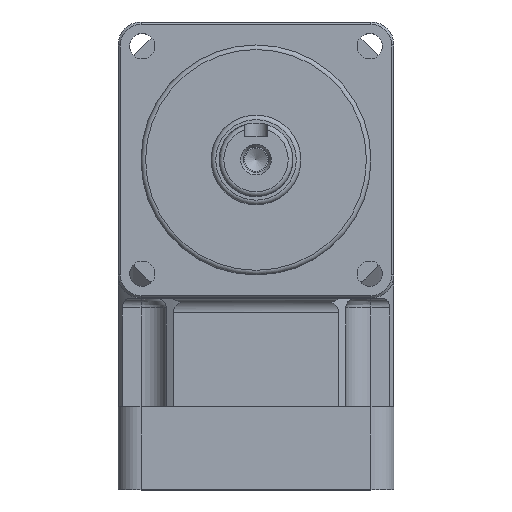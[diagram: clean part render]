
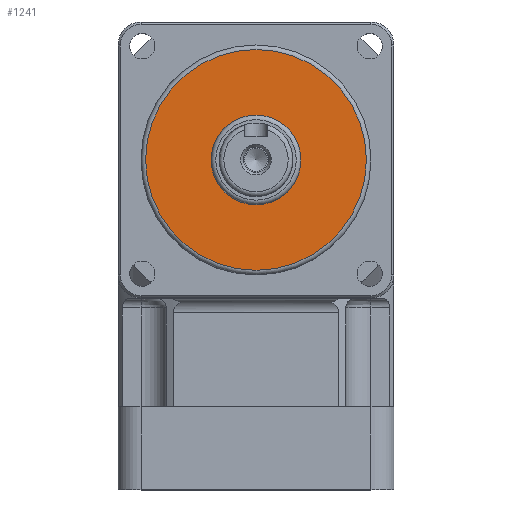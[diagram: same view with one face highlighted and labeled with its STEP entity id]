
A CAD part, top view. The second image highlights one B-rep face of the part: STEP entity #1241.
In plain terms, the highlighted planar face has unit normal (0, 0, 1).
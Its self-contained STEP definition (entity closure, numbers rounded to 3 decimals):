
#507=CARTESIAN_POINT('',(-9.75,0.,-1.0));
#508=VERTEX_POINT('',#507);
#509=CARTESIAN_POINT('',(0.0,0.0,-1.0));
#510=DIRECTION('',(0.0,0.0,1.0));
#511=DIRECTION('',(1.0,0.0,0.0));
#512=AXIS2_PLACEMENT_3D('',#509,#510,#511);
#513=CIRCLE('',#512,9.75);
#514=EDGE_CURVE('',#508,#508,#513,.T.);
#1218=CARTESIAN_POINT('',(-24.0,0.,-1.0));
#1219=VERTEX_POINT('',#1218);
#1220=CARTESIAN_POINT('',(0.0,0.0,-1.0));
#1221=DIRECTION('',(0.0,0.0,-1.0));
#1222=DIRECTION('',(1.0,0.0,0.0));
#1223=AXIS2_PLACEMENT_3D('',#1220,#1221,#1222);
#1224=CIRCLE('',#1223,24.0);
#1225=EDGE_CURVE('',#1219,#1219,#1224,.T.);
#1230=CARTESIAN_POINT('',(0.0,0.0,-1.0));
#1231=DIRECTION('',(0.0,0.0,1.0));
#1232=DIRECTION('',(1.0,0.0,0.0));
#1233=AXIS2_PLACEMENT_3D('',#1230,#1231,#1232);
#1234=PLANE('',#1233);
#1235=ORIENTED_EDGE('',*,*,#1225,.F.);
#1236=EDGE_LOOP('',(#1235));
#1237=FACE_OUTER_BOUND('',#1236,.T.);
#1238=ORIENTED_EDGE('',*,*,#514,.F.);
#1239=EDGE_LOOP('',(#1238));
#1240=FACE_BOUND('',#1239,.T.);
#1241=ADVANCED_FACE('',(#1237,#1240),#1234,.T.);
